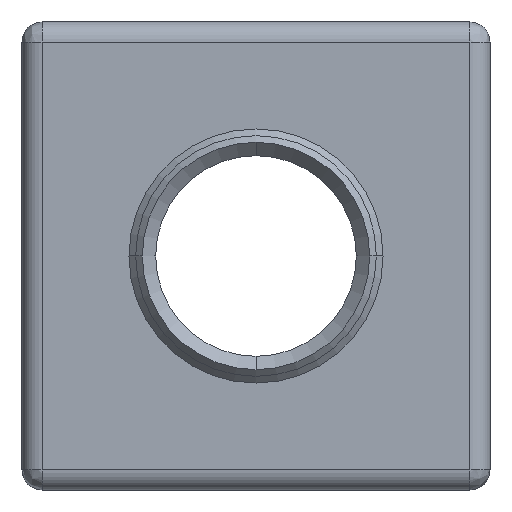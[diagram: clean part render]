
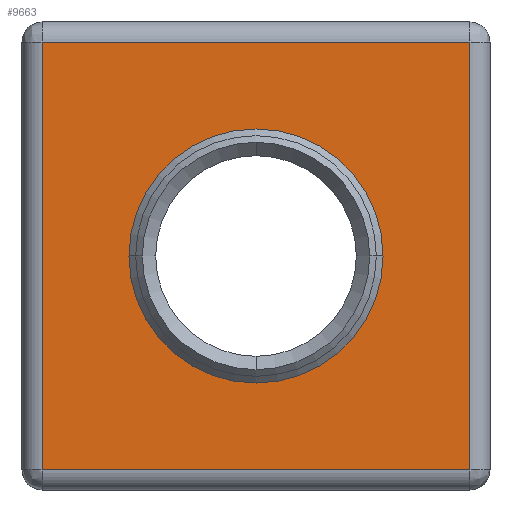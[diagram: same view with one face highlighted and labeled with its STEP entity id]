
A CAD part, front view. The second image highlights one B-rep face of the part: STEP entity #9663.
In plain terms, the highlighted planar face has unit normal (0, -1, 0).
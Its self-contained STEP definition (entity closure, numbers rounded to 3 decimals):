
#461 = EDGE_LOOP ( 'NONE', ( #794, #13141 ) ) ;
#530 = VECTOR ( 'NONE', #10713, 1000. ) ;
#794 = ORIENTED_EDGE ( 'NONE', *, *, #14698, .F. ) ;
#1029 = LINE ( 'NONE', #8139, #3036 ) ;
#1635 = ORIENTED_EDGE ( 'NONE', *, *, #12155, .F. ) ;
#1704 = VERTEX_POINT ( 'NONE', #12639 ) ;
#2204 = LINE ( 'NONE', #10919, #3609 ) ;
#2872 = CARTESIAN_POINT ( 'NONE',  ( -17.5, 0., -16. ) ) ;
#2883 = CARTESIAN_POINT ( 'NONE',  ( 0., 0., 9.5 ) ) ;
#3036 = VECTOR ( 'NONE', #15895, 1000. ) ;
#3566 = CIRCLE ( 'NONE', #12977, 9.5 ) ;
#3609 = VECTOR ( 'NONE', #12182, 1000. ) ;
#4022 = CARTESIAN_POINT ( 'NONE',  ( -17.5, 0., 17.5 ) ) ;
#4053 = CIRCLE ( 'NONE', #8493, 9.5 ) ;
#5094 = CARTESIAN_POINT ( 'NONE',  ( 0., 0., -9.5 ) ) ;
#5269 = CARTESIAN_POINT ( 'NONE',  ( 0., 0., 0. ) ) ;
#6230 = EDGE_CURVE ( 'NONE', #11001, #11440, #3566, .T. ) ;
#6270 = AXIS2_PLACEMENT_3D ( 'NONE', #4022, #12904, #12689 ) ;
#6561 = DIRECTION ( 'NONE',  ( 0., -1., 0. ) ) ;
#6846 = CARTESIAN_POINT ( 'NONE',  ( 16., 0., -16. ) ) ;
#7784 = DIRECTION ( 'NONE',  ( 0., 0., 1. ) ) ;
#7914 = CARTESIAN_POINT ( 'NONE',  ( 16., 0., 16. ) ) ;
#8139 = CARTESIAN_POINT ( 'NONE',  ( -17.5, 0., 16. ) ) ;
#8493 = AXIS2_PLACEMENT_3D ( 'NONE', #12844, #6561, #7784 ) ;
#8521 = LINE ( 'NONE', #2872, #530 ) ;
#8805 = EDGE_CURVE ( 'NONE', #9924, #1704, #13282, .T. ) ;
#8844 = FACE_OUTER_BOUND ( 'NONE', #16010, .T. ) ;
#9558 = CARTESIAN_POINT ( 'NONE',  ( -16., 0., -16. ) ) ;
#9663 = ADVANCED_FACE ( 'NONE', ( #8844, #12033 ), #10396, .F. ) ;
#9924 = VERTEX_POINT ( 'NONE', #9558 ) ;
#10395 = EDGE_CURVE ( 'NONE', #12445, #9924, #8521, .T. ) ;
#10396 = PLANE ( 'NONE',  #6270 ) ;
#10620 = DIRECTION ( 'NONE',  ( 0., 0., 1. ) ) ;
#10713 = DIRECTION ( 'NONE',  ( -1., 0., 0. ) ) ;
#10919 = CARTESIAN_POINT ( 'NONE',  ( 16., 0., 17.5 ) ) ;
#11001 = VERTEX_POINT ( 'NONE', #5094 ) ;
#11084 = VECTOR ( 'NONE', #10620, 1000. ) ;
#11213 = ORIENTED_EDGE ( 'NONE', *, *, #10395, .F. ) ;
#11440 = VERTEX_POINT ( 'NONE', #2883 ) ;
#12033 = FACE_BOUND ( 'NONE', #461, .T. ) ;
#12050 = ORIENTED_EDGE ( 'NONE', *, *, #8805, .F. ) ;
#12155 = EDGE_CURVE ( 'NONE', #1704, #14251, #1029, .T. ) ;
#12182 = DIRECTION ( 'NONE',  ( 0., 0., -1. ) ) ;
#12445 = VERTEX_POINT ( 'NONE', #6846 ) ;
#12581 = EDGE_CURVE ( 'NONE', #14251, #12445, #2204, .T. ) ;
#12639 = CARTESIAN_POINT ( 'NONE',  ( -16., 0., 16. ) ) ;
#12689 = DIRECTION ( 'NONE',  ( 0., 0., 1. ) ) ;
#12738 = DIRECTION ( 'NONE',  ( 0., 0., 1. ) ) ;
#12844 = CARTESIAN_POINT ( 'NONE',  ( 0., 0., 0. ) ) ;
#12904 = DIRECTION ( 'NONE',  ( 0., 1., 0. ) ) ;
#12977 = AXIS2_PLACEMENT_3D ( 'NONE', #5269, #15274, #12738 ) ;
#13141 = ORIENTED_EDGE ( 'NONE', *, *, #6230, .F. ) ;
#13282 = LINE ( 'NONE', #15755, #11084 ) ;
#14251 = VERTEX_POINT ( 'NONE', #7914 ) ;
#14698 = EDGE_CURVE ( 'NONE', #11440, #11001, #4053, .T. ) ;
#15274 = DIRECTION ( 'NONE',  ( 0., -1., 0. ) ) ;
#15300 = ORIENTED_EDGE ( 'NONE', *, *, #12581, .F. ) ;
#15755 = CARTESIAN_POINT ( 'NONE',  ( -16., 0., 17.5 ) ) ;
#15895 = DIRECTION ( 'NONE',  ( 1., 0., 0. ) ) ;
#16010 = EDGE_LOOP ( 'NONE', ( #12050, #11213, #15300, #1635 ) ) ;
